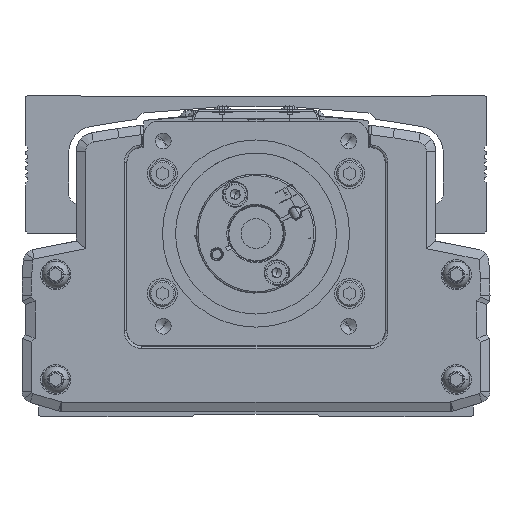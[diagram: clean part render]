
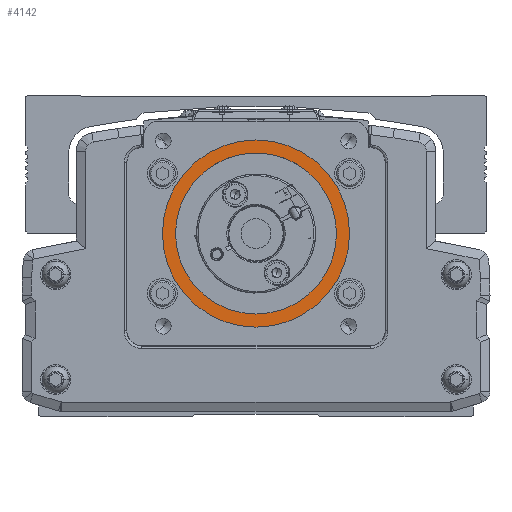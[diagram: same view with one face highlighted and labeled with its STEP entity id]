
A CAD part, front view. The second image highlights one B-rep face of the part: STEP entity #4142.
In plain terms, the highlighted planar face has unit normal (0, -1, 0).
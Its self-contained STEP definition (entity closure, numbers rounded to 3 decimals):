
#4142=ADVANCED_FACE('',(#10956,#10957),#10958,.T.);
#10956=FACE_BOUND('',#21479,.T.);
#10957=FACE_OUTER_BOUND('',#21480,.T.);
#10958=PLANE('',#21481);
#21479=EDGE_LOOP('',(#34821,#34822));
#21480=EDGE_LOOP('',(#34823,#34824));
#21481=AXIS2_PLACEMENT_3D('',#34825,#34826,#34827);
#34821=ORIENTED_EDGE('',*,*,#62125,.F.);
#34822=ORIENTED_EDGE('',*,*,#62126,.F.);
#34823=ORIENTED_EDGE('',*,*,#62127,.F.);
#34824=ORIENTED_EDGE('',*,*,#62128,.F.);
#34825=CARTESIAN_POINT('',(-300.,-210.778,0.));
#34826=DIRECTION('',(0.,-1.0,0.));
#34827=DIRECTION('',(1.0,0.,0.));
#62125=EDGE_CURVE('',#74513,#74514,#74515,.T.);
#62126=EDGE_CURVE('',#74514,#74513,#74516,.T.);
#62127=EDGE_CURVE('',#74517,#74518,#74519,.T.);
#62128=EDGE_CURVE('',#74518,#74517,#74520,.T.);
#74513=VERTEX_POINT('',#91985);
#74514=VERTEX_POINT('',#91986);
#74515=CIRCLE('',#91987,21.5);
#74516=CIRCLE('',#91988,21.5);
#74517=VERTEX_POINT('',#91989);
#74518=VERTEX_POINT('',#91990);
#74519=CIRCLE('',#91991,25.0);
#74520=CIRCLE('',#91992,25.0);
#91985=CARTESIAN_POINT('',(-278.5,-210.778,0.));
#91986=CARTESIAN_POINT('',(-321.5,-210.778,0.));
#91987=AXIS2_PLACEMENT_3D('',#113308,#113309,#113310);
#91988=AXIS2_PLACEMENT_3D('',#113311,#113312,#113313);
#91989=CARTESIAN_POINT('',(-275.,-210.778,0.));
#91990=CARTESIAN_POINT('',(-325.,-210.778,0.));
#91991=AXIS2_PLACEMENT_3D('',#113314,#113315,#113316);
#91992=AXIS2_PLACEMENT_3D('',#113317,#113318,#113319);
#113308=CARTESIAN_POINT('',(-300.,-210.778,0.));
#113309=DIRECTION('',(0.,-1.0,0.));
#113310=DIRECTION('',(1.0,0.,0.));
#113311=CARTESIAN_POINT('',(-300.,-210.778,0.));
#113312=DIRECTION('',(0.,-1.0,0.));
#113313=DIRECTION('',(1.0,0.,0.));
#113314=CARTESIAN_POINT('',(-300.,-210.778,0.));
#113315=DIRECTION('',(0.,1.0,0.));
#113316=DIRECTION('',(1.0,0.,0.));
#113317=CARTESIAN_POINT('',(-300.,-210.778,0.));
#113318=DIRECTION('',(0.,1.0,0.));
#113319=DIRECTION('',(1.0,0.,0.));
